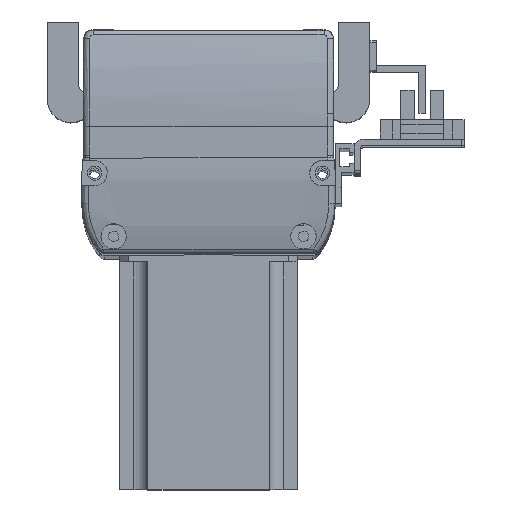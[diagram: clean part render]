
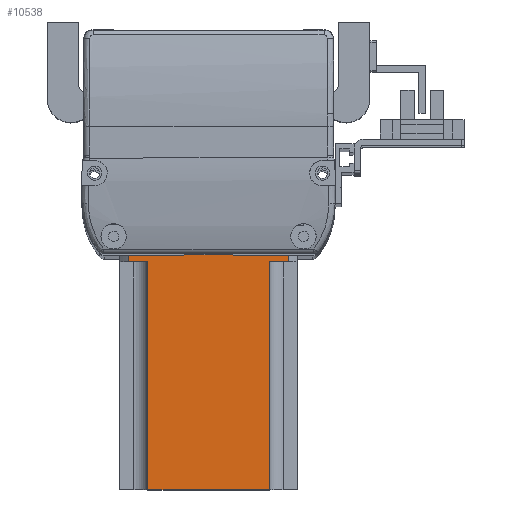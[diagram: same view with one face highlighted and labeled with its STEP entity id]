
A CAD part, top view. The second image highlights one B-rep face of the part: STEP entity #10538.
In plain terms, the highlighted planar face has unit normal (0, 0, 1).
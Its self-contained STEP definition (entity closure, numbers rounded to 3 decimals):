
#208 = VERTEX_POINT ( 'NONE', #28210 ) ;
#501 = ORIENTED_EDGE ( 'NONE', *, *, #14909, .T. ) ;
#1261 = VECTOR ( 'NONE', #12248, 1000. ) ;
#1692 = CARTESIAN_POINT ( 'NONE',  ( -6.279, -104.571, 523. ) ) ;
#2052 = DIRECTION ( 'NONE',  ( 0., -1., 0. ) ) ;
#2247 = CARTESIAN_POINT ( 'NONE',  ( -44.559, -104.571, 523. ) ) ;
#2446 = ORIENTED_EDGE ( 'NONE', *, *, #9924, .T. ) ;
#2799 = EDGE_LOOP ( 'NONE', ( #25116, #3471, #4107, #26725, #9781, #501, #23147, #2446 ) ) ;
#3471 = ORIENTED_EDGE ( 'NONE', *, *, #8907, .T. ) ;
#4055 = VERTEX_POINT ( 'NONE', #13383 ) ;
#4107 = ORIENTED_EDGE ( 'NONE', *, *, #14155, .T. ) ;
#4479 = FACE_OUTER_BOUND ( 'NONE', #2799, .T. ) ;
#4701 = DIRECTION ( 'NONE',  ( 1., 0., 0. ) ) ;
#5317 = CARTESIAN_POINT ( 'NONE',  ( -53.419, -32.571, 523. ) ) ;
#5409 = LINE ( 'NONE', #18107, #14454 ) ;
#6021 = CARTESIAN_POINT ( 'NONE',  ( -53.419, -104.571, 523. ) ) ;
#6210 = CARTESIAN_POINT ( 'NONE',  ( -50.738, -32.571, 523. ) ) ;
#6908 = DIRECTION ( 'NONE',  ( 0., 1., 0. ) ) ;
#7138 = VECTOR ( 'NONE', #27868, 1000. ) ;
#7982 = CARTESIAN_POINT ( 'NONE',  ( -6.279, -32.571, 523. ) ) ;
#8338 = DIRECTION ( 'NONE',  ( 1., 0., 0. ) ) ;
#8907 = EDGE_CURVE ( 'NONE', #10627, #23034, #20831, .T. ) ;
#9781 = ORIENTED_EDGE ( 'NONE', *, *, #24799, .T. ) ;
#9879 = LINE ( 'NONE', #19291, #22298 ) ;
#9924 = EDGE_CURVE ( 'NONE', #4055, #16665, #23366, .T. ) ;
#9940 = CARTESIAN_POINT ( 'NONE',  ( -0.1, -104.571, 523. ) ) ;
#10395 = EDGE_CURVE ( 'NONE', #17424, #4055, #25220, .T. ) ;
#10538 = ADVANCED_FACE ( 'NONE', ( #4479 ), #19933, .T. ) ;
#10627 = VERTEX_POINT ( 'NONE', #1692 ) ;
#11429 = CARTESIAN_POINT ( 'NONE',  ( -53.419, -104.571, 523. ) ) ;
#11653 = VERTEX_POINT ( 'NONE', #17099 ) ;
#11978 = VERTEX_POINT ( 'NONE', #28734 ) ;
#12248 = DIRECTION ( 'NONE',  ( 1., 0., 0. ) ) ;
#12680 = DIRECTION ( 'NONE',  ( 0., -1., 0. ) ) ;
#13383 = CARTESIAN_POINT ( 'NONE',  ( -44.559, -32.571, 523. ) ) ;
#13739 = VECTOR ( 'NONE', #26331, 1000. ) ;
#14155 = EDGE_CURVE ( 'NONE', #23034, #208, #20738, .T. ) ;
#14454 = VECTOR ( 'NONE', #2052, 1000. ) ;
#14582 = VECTOR ( 'NONE', #6908, 1000. ) ;
#14693 = EDGE_CURVE ( 'NONE', #208, #11653, #19962, .T. ) ;
#14909 = EDGE_CURVE ( 'NONE', #11978, #17424, #5409, .T. ) ;
#16160 = CARTESIAN_POINT ( 'NONE',  ( -53.419, -32.571, 523. ) ) ;
#16665 = VERTEX_POINT ( 'NONE', #2247 ) ;
#17053 = VECTOR ( 'NONE', #12680, 1000. ) ;
#17099 = CARTESIAN_POINT ( 'NONE',  ( -0.1, -27.571, 523. ) ) ;
#17424 = VERTEX_POINT ( 'NONE', #6210 ) ;
#17617 = EDGE_CURVE ( 'NONE', #16665, #10627, #18724, .T. ) ;
#18107 = CARTESIAN_POINT ( 'NONE',  ( -50.738, -104.571, 523. ) ) ;
#18724 = LINE ( 'NONE', #11429, #7138 ) ;
#19291 = CARTESIAN_POINT ( 'NONE',  ( -53.419, -27.571, 523. ) ) ;
#19635 = CARTESIAN_POINT ( 'NONE',  ( -44.559, -104.571, 523. ) ) ;
#19933 = PLANE ( 'NONE',  #24549 ) ;
#19962 = LINE ( 'NONE', #9940, #13739 ) ;
#20738 = LINE ( 'NONE', #16160, #25545 ) ;
#20831 = LINE ( 'NONE', #27887, #14582 ) ;
#21669 = DIRECTION ( 'NONE',  ( -1., 0., 0. ) ) ;
#22298 = VECTOR ( 'NONE', #21669, 1000. ) ;
#22312 = DIRECTION ( 'NONE',  ( 0., 0., 1. ) ) ;
#23034 = VERTEX_POINT ( 'NONE', #7982 ) ;
#23147 = ORIENTED_EDGE ( 'NONE', *, *, #10395, .T. ) ;
#23366 = LINE ( 'NONE', #19635, #17053 ) ;
#24549 = AXIS2_PLACEMENT_3D ( 'NONE', #6021, #22312, #8338 ) ;
#24799 = EDGE_CURVE ( 'NONE', #11653, #11978, #9879, .T. ) ;
#25116 = ORIENTED_EDGE ( 'NONE', *, *, #17617, .T. ) ;
#25220 = LINE ( 'NONE', #5317, #1261 ) ;
#25545 = VECTOR ( 'NONE', #4701, 1000. ) ;
#26331 = DIRECTION ( 'NONE',  ( 0., 1., 0. ) ) ;
#26725 = ORIENTED_EDGE ( 'NONE', *, *, #14693, .T. ) ;
#27868 = DIRECTION ( 'NONE',  ( 1., 0., 0. ) ) ;
#27887 = CARTESIAN_POINT ( 'NONE',  ( -6.279, -104.571, 523. ) ) ;
#28210 = CARTESIAN_POINT ( 'NONE',  ( -0.1, -32.571, 523. ) ) ;
#28734 = CARTESIAN_POINT ( 'NONE',  ( -50.738, -27.571, 523. ) ) ;
